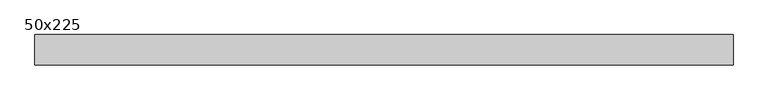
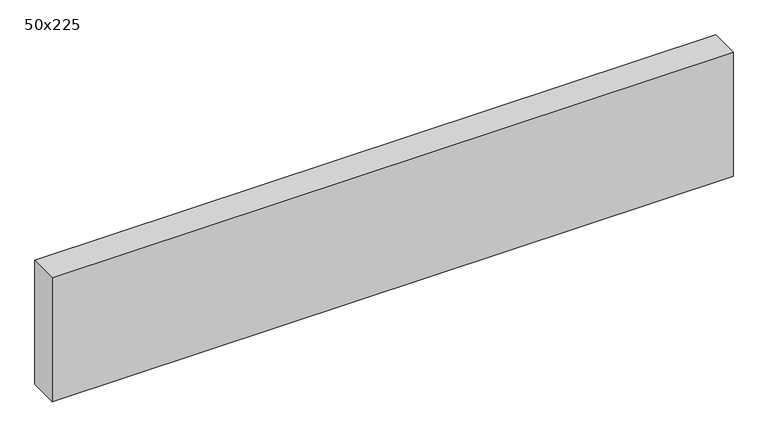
"""IFC4 building model written with IfcOpenShell, lengths in millimetres: beam geometry, Graded Timber : 50x225."""

from ifc_helpers import new_model, si_unit, frame, origin, place, context, project, spatial, polyline, outline, extrude, source, transform, mapped, element, save


def beam_50x225_1ea18a3f(model_context):
    return source(origin(), model_context, "Body", "SweptSolid", [
        extrude(outline(polyline([(571.0, 25.0), (571.0, -25.0), (-571.0, -25.0), (-571.0, 25.0), (571.0, 25.0)])), frame((0.0, 0.0, -110.0), z_axis=(0.0, 0.0, 1.0), x_axis=(1.0, 0.0, 0.0)), (0.0, 0.0, 1.0), 220.0),
    ])


if __name__ == "__main__":
    model = new_model("IFC4")
    model_context = context("Model", 3, world=origin())
    ifc_project = project(units=[si_unit("LENGTHUNIT", "METRE", prefix="MILLI")], contexts=[model_context])
    site = spatial("IfcSite", under=ifc_project)
    building = spatial("IfcBuilding", under=site)
    placement = place(None, origin())
    beam_50x225_shape = beam_50x225_1ea18a3f(model_context)
    element("IfcBeam", 1, ObjectType="Graded Timber : 50x225", at=placement, inside=building, context=model_context, shape_type="MappedRepresentation", body=[
        mapped(beam_50x225_shape, transform((0.0, 0.0, 0.0), x_axis=(1.0, 0.0, 0.0), y_axis=(0.0, 1.0, 0.0), z_axis=(0.0, 0.0, 1.0))),
    ])
    save(model, "model.ifc")
